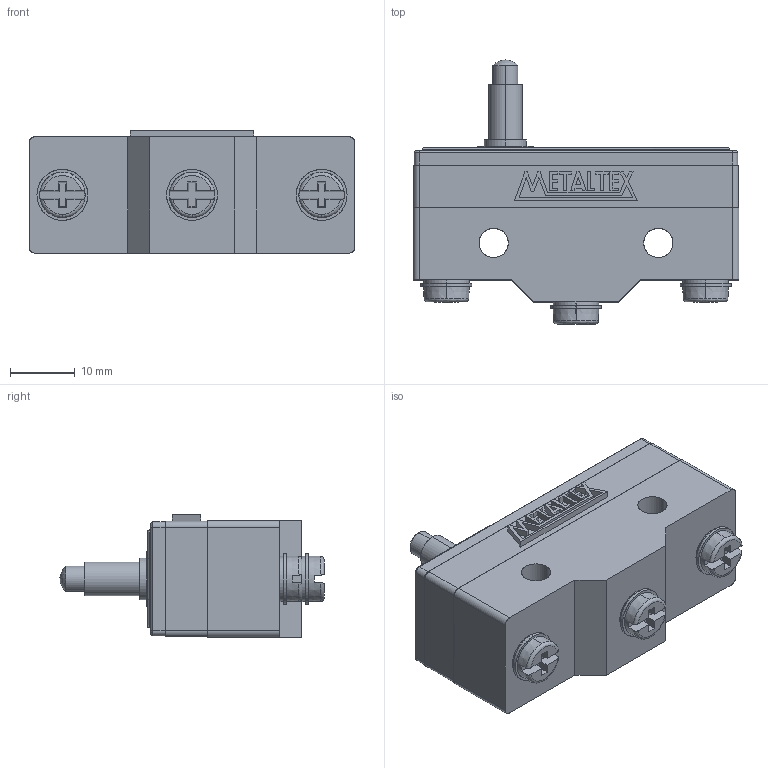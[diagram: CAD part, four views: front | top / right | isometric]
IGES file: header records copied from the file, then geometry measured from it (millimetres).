
Start section: SolidWorks IGES file using analytic representation for surfaces
Global section: file name: D:\X - Arquivos\PROEX\Empresas\P11 - METALTEX\01 - Produtos\IGES\4ª remessa\1ª etapa\FM1305.IGS; native system: SolidWorks 2012; preprocessor: SolidWorks 2012; author: Usuario; date: 180323.102325; units: millimetre
Bounding box: 50.3 x 40.74 x 18.9 mm (x, y, z)
Surface area: 6036.9 mm2 (no closed solid volume)
Topology: 0 solids, 0 shells, 236 faces, 2375 edges, 2375 vertices
Faces by surface type: bspline 183, revolution 53
